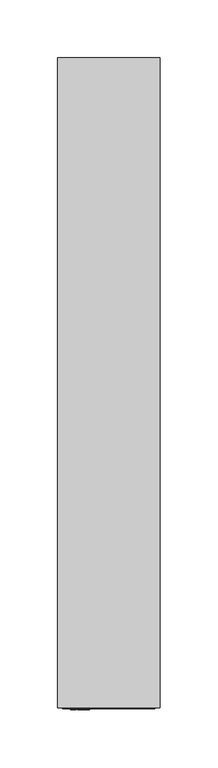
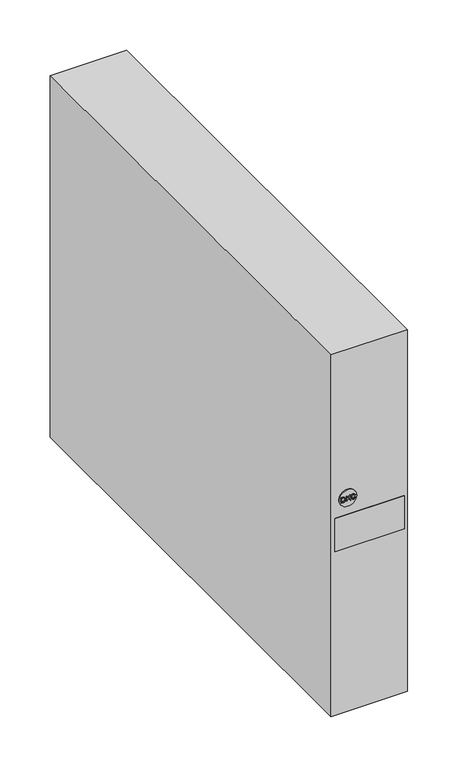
"""IFC4 building model written with IfcOpenShell, lengths in millimetres: proxy geometry, НВО_КНС_ОнлайнИБПSmallRackmount_DKC : 3000 ВА."""

from ifc_helpers import new_model, si_unit, point, frame, frame_2d, origin, origin_with_axes, place, context, project, spatial, polyline, circle_curve, trimmed, segment, composite_curve, outline, extrude, source, transform, mapped, element, save


def electrical_equipment_e80a7951(model_context):
    return source(origin(), model_context, "Body", "SweptSolid", [
        extrude(outline(polyline([(257.0, -33.1463789), (257.0, -30.967046), (257.103007, -29.9980448), (257.9520786, -28.7273804), (258.829845, -28.3153525), (260.0460629, -28.154956), (261.4793312, -28.391872), (262.5094008, -29.1055631), (262.9405585, -29.9914229), (263.0273786, -31.0671099), (263.0273786, -33.1463789), (257.0, -33.1463789)]), holes=[polyline([(257.7534223, -32.3929566), (262.2739563, -32.3929566), (262.2739563, -31.0803536), (262.153291, -30.0120243), (261.4852173, -29.2299072), (260.0578351, -28.9083783), (258.9181367, -29.0724537), (257.8623154, -30.0900153), (257.7534223, -31.0597522), (257.7534223, -32.3929566)])]), frame((0.0, -2.0, 0.0), z_axis=(0.0, 1.0, 0.0), x_axis=(0.0, 0.0, 1.0)), (0.0, 0.0, 1.0), 6.0),
        extrude(outline(polyline([(257.0, -26.7422891), (259.0719114, -26.365578), (260.0401768, -25.3502237), (257.0, -23.0487539), (257.0, -22.1275774), (260.5493255, -24.816059), (263.0273786, -22.2217552), (263.0273786, -23.2753692), (260.076965, -26.365578), (263.0273786, -27.1190003), (257.0, -26.7422891)])), frame((0.0, -2.0, 0.0), z_axis=(0.0, 1.0, 0.0), x_axis=(0.0, 0.0, 1.0)), (0.0, 0.0, 1.0), 6.0),
        extrude(outline(polyline([(259.1425447, -17.3245101), (258.0330126, -17.963889), (257.6592445, -19.1168311), (257.9336845, -20.1564657), (258.7628905, -20.8642706), (260.0607782, -21.0916217), (261.180611, -20.8995873), (262.0458694, -20.2337209), (262.3681341, -19.055027), (262.0775073, -18.0367296), (261.3307068, -16.6652655), (262.652139, -17.5165445), (263.1215564, -19.0255964), (262.7588248, -20.4735799), (261.6971173, -21.4881985), (260.0593067, -21.845044), (258.4479835, -21.5294013), (257.3016632, -20.6096963), (256.9058222, -19.0417832), (257.4289504, -17.4643052), (259.1425447, -17.3245101)])), frame((0.0, -2.0, 0.0), z_axis=(0.0, 1.0, 0.0), x_axis=(0.0, 0.0, 1.0)), (0.0, 0.0, 1.0), 6.0),
        extrude(outline(composite_curve([segment(trimmed(circle_curve(frame_2d((260.0, -25.0)), 10.0), [point((260.0, -35.0))], [point((260.0, -15.0))], False, "CARTESIAN"), True, "CONTINUOUS"), segment(trimmed(circle_curve(frame_2d((260.0, -25.0)), 10.0), [point((260.0, -15.0))], [point((260.0, -35.0))], False, "CARTESIAN"), True, "CONTINUOUS")], self_intersect=False)), frame((0.0, -1.0, 0.0), z_axis=(0.0, 1.0, 0.0), x_axis=(0.0, 0.0, 1.0)), (0.0, 0.0, 1.0), 10.0),
        extrude(outline(polyline([(44.0, 0.0), (-44.0, 0.0), (-44.0, 560.0), (44.0, 560.0), (44.0, 0.0)])), origin_with_axes(), (0.0, 0.0, 1.0), 440.0),
        extrude(outline(polyline([(40.0, -1.0), (-40.0, -1.0), (-40.0, 0.0), (40.0, 0.0), (40.0, -1.0)])), frame((0.0, 0.0, 200.0), z_axis=(0.0, 0.0, 1.0), x_axis=(1.0, 0.0, 0.0)), (0.0, 0.0, 1.0), 40.0),
    ])


if __name__ == "__main__":
    model = new_model("IFC4")
    model_context = context("Model", 3, world=origin())
    ifc_project = project(units=[si_unit("LENGTHUNIT", "METRE", prefix="MILLI")], contexts=[model_context])
    site = spatial("IfcSite", under=ifc_project)
    building = spatial("IfcBuilding", under=site)
    placement = place(None, origin())
    electrical_equipment_shape = electrical_equipment_e80a7951(model_context)
    element("IfcBuildingElementProxy", 1, Name="НВО_КНС_ОнлайнИБПSmallRackmount_DKC : 3000 ВА", ObjectType="НВО_КНС_ОнлайнИБПSmallRackmount_DKC : 3000 ВА", at=placement, inside=building, context=model_context, shape_type="MappedRepresentation", body=[
        mapped(electrical_equipment_shape, transform((0.0, 0.0, 0.0), x_axis=(1.0, 0.0, 0.0), y_axis=(0.0, 1.0, 0.0), z_axis=(0.0, 0.0, 1.0))),
    ])
    save(model, "model.ifc")
